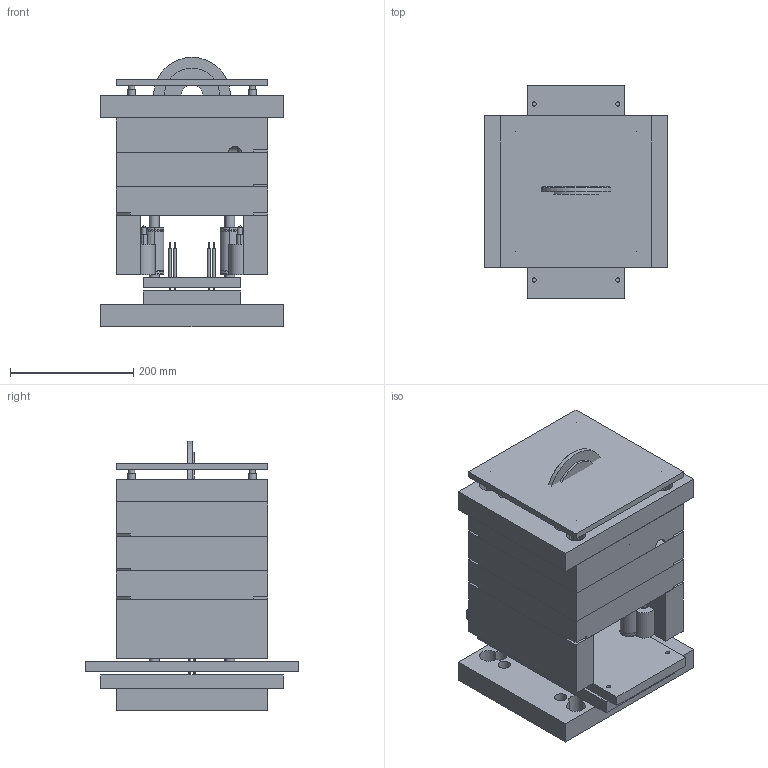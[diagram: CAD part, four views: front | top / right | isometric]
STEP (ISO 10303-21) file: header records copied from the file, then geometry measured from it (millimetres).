
FILE_DESCRIPTION(('Open CASCADE Model'),'2;1');
FILE_NAME('Open CASCADE Shape Model','2026-07-14T06:06:51',('Author'),( 'Open CASCADE'),'Open CASCADE STEP processor 7.9','Open CASCADE 7.9' ,'Unknown');
FILE_SCHEMA(('AUTOMOTIVE_DESIGN { 1 0 10303 214 1 1 1 1 }'));
Length unit declared in the file: millimetre
Products named in the file (68): mold_builder_assembly; Fixed_Half; cavity_plate; clamp_fixed; guide_pin_0; guide_pin_1; guide_pin_2; guide_pin_3; guide_bushing_0; guide_bushing_1; guide_bushing_2; guide_bushing_3; screw_top_0; screw_top_1; screw_top_2; screw_top_3; dowel_pin_0; dowel_pin_1; insulation_plate; sprue_bushing; locating_ring; gate_0; slide_1_K2528; Moving_Half; clamp_moving; support_plate; core_plate; spacer_block; support_pillar_0; support_pillar_1; support_pillar_2; support_pillar_3; screw_bot_0; screw_bot_1; screw_bot_2; screw_bot_3; cooling_channel_0; cooling_channel_1; cooling_channel_2; cooling_channel_3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
Assembly tree (67 placements, depth 3):
  mold_builder_assembly
    Fixed_Half
      cavity_plate
      clamp_fixed
      guide_pin_0
      guide_pin_1
      guide_pin_2
      guide_pin_3
      guide_bushing_0
      guide_bushing_1
      guide_bushing_2
      guide_bushing_3
      screw_top_0
      screw_top_1
      screw_top_2
      screw_top_3
      dowel_pin_0
      dowel_pin_1
      insulation_plate
      sprue_bushing
      locating_ring
      gate_0
      slide_1_K2528
    Moving_Half
      clamp_moving
      support_plate
      core_plate
      spacer_block
      support_pillar_0
      support_pillar_1
      support_pillar_2
      support_pillar_3
      screw_bot_0
      screw_bot_1
      screw_bot_2
      screw_bot_3
      cooling_channel_0
      cooling_channel_1
      cooling_channel_2
      cooling_channel_3
      cooling_channel_4
      cooling_uturn_0
      cooling_uturn_1
      cooling_uturn_2
      cooling_uturn_3
      cooling_inlet
      cooling_outlet
      cooling_oring_inlet
      cooling_oring_outlet
    Ejection
      ejector_plate
      ejector_retainer
      ejector_pin_0
      ejector_pin_1
      ejector_pin_2
      ejector_pin_3
      ejector_pin_4
      ejector_pin_5
      ejector_pin_6
      ejector_pin_7
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Bounding box: 296 x 346 x 437.5 mm (x, y, z)
Volume: 19905074 mm3; surface area: 2089464.3 mm2
Topology: 112 solids, 112 shells, 1259 faces, 2616 edges, 1633 vertices
Faces by surface type: plane 528, cylinder 463, cone 167, bspline 60, torus 17, offset 12, sphere 12
Full cylindrical faces by diameter (mm): 4 x5, 6.8 x4, 9.728 x2, 10.2 x16, 11.4 x2, 11.98 x8, 12 x27, 13.5 x8, 14 x12, 15 x2, 16 x5, 16.1 x12, 16.6 x4, 18 x8, 20 x16, 24 x4, 24.1 x4, 27.576 x1, 28 x6, 38.19 x1, 90 x1, 125 x1
Entity records: 90408 total; most frequent: CARTESIAN_POINT 36581, DIRECTION 10122, ORIENTED_EDGE 5130, PCURVE 5130, DEFINITIONAL_REPRESENTATION 5130, LINE 4840, VECTOR 4840, EDGE_CURVE 2565
